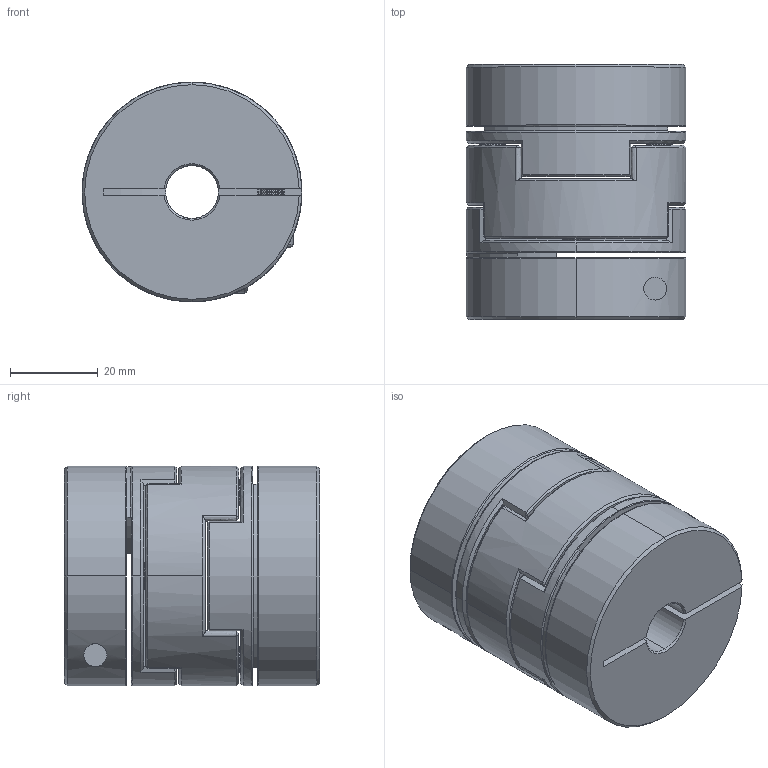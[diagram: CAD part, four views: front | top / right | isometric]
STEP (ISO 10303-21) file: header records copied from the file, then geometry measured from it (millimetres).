
FILE_DESCRIPTION (( 'STEP AP203' ), '1' );
FILE_NAME ('LZ-B-D50L58-12-14.STEP', '2021-10-29T07:27:09', ( '' ), ( '' ), 'SwSTEP 2.0', 'SolidWorks 2018', '' );
FILE_SCHEMA (( 'CONFIG_CONTROL_DESIGN' ));
Length unit declared in the file: millimetre
Products named in the file (1): LZ-B-D50L58-12-14
Bounding box: 50 x 58 x 50 mm (x, y, z)
Volume: 96389.4 mm3; surface area: 30265.9 mm2
Topology: 1 solids, 27 shells, 560 faces, 1364 edges, 810 vertices
Faces by surface type: cone 252, cylinder 160, plane 90, bspline 54, torus 4
Entity records: 17422 total; most frequent: CARTESIAN_POINT 4342, DIRECTION 2782, ORIENTED_EDGE 2720, EDGE_CURVE 1360, AXIS2_PLACEMENT_3D 1123, VERTEX_POINT 810, CIRCLE 616, EDGE_LOOP 594
